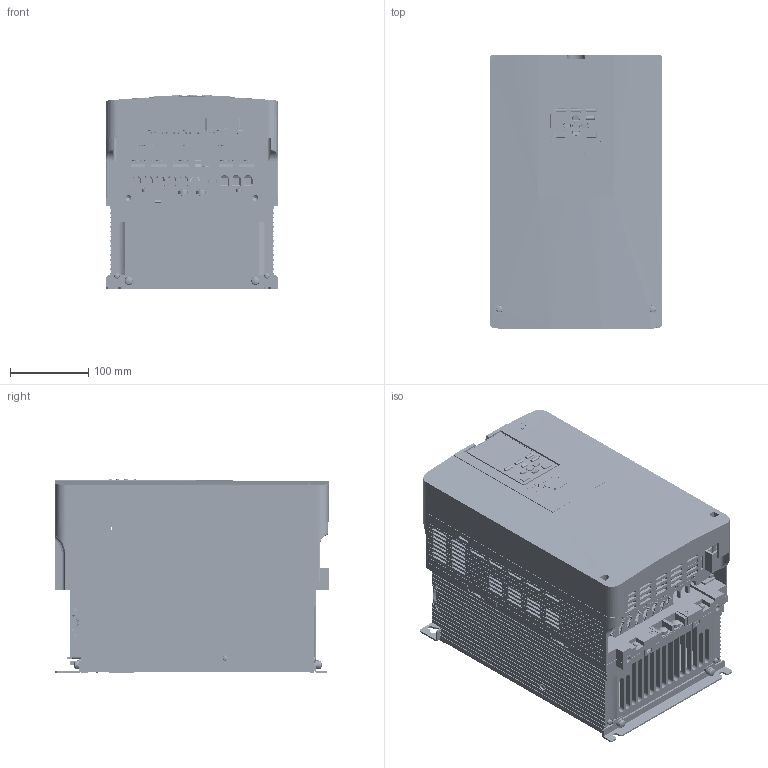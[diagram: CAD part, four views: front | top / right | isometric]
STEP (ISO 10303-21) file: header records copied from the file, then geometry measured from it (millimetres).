
FILE_DESCRIPTION((''),'2;1');
FILE_NAME('71617-GA70_Q_4060_AB_B_Q_A_ASM','2017-03-11T',('toshi531'),('YASKAWA ELECTRIC CORCORATION'),'PRO/ENGINEER BY PARAMETRIC TECHNOLOGY CORPORATION, 2015110','PRO/ENGINEER BY PARAMETRIC TECHNOLOGY CORPORATION, 2015110','');
FILE_SCHEMA(('AUTOMOTIVE_DESIGN { 1 0 10303 214 1 1 1 1 }'));
Products named in the file (19): LAY-GA70_4060; GA70_4060_BODY; GA70_4060_MTG_PLATE_BOTTOM; GEM_OPEN_SCREW_M6X14; GA70_4060_MTG_PLATE_TOP; GA70_4060_FAN; GA70_4060_FAN_COVER; GEM_OPEN_SCREW_M4X20; GA70_ALL_TB_TYPEB; GEM_OPEN_SCREW_M3P5X6; GEM_OPEN_SCREW_M3X15; GA70_ALL_LED; GA70_4060_IP20_COVER; GA70_4060_FP; GA70_ALL_USB_COVER; GA70_ALL_CONNECTOR; GA70_ALL_LCD_OPERATOR; GA70_4060_SCREW_GND; 71617-GA70_Q_4060_AB_B_Q_A_ASM
Assembly tree (23 placements, depth 2):
  71617-GA70_Q_4060_AB_B_Q_A_ASM
    LAY-GA70_4060
    GA70_4060_BODY
    GA70_4060_MTG_PLATE_BOTTOM
    GEM_OPEN_SCREW_M6X14  x4
    GA70_4060_MTG_PLATE_TOP
    GA70_4060_FAN  x2
    GA70_4060_FAN_COVER
    GEM_OPEN_SCREW_M4X20
    GA70_ALL_TB_TYPEB
    GEM_OPEN_SCREW_M3P5X6
    GEM_OPEN_SCREW_M3X15
    GA70_ALL_LED
    GA70_4060_IP20_COVER
    GA70_4060_FP
    GA70_ALL_USB_COVER
    GA70_ALL_CONNECTOR
    GA70_ALL_LCD_OPERATOR
    GA70_4060_SCREW_GND  x2
Bounding box: 220 x 350 x 247.5 mm (x, y, z)
Volume: 6568342.9 mm3; surface area: 1318244.1 mm2
Topology: 27 solids, 37 shells, 12536 faces, 34150 edges, 22179 vertices
Faces by surface type: plane 9716, cylinder 2033, torus 277, cone 237, bspline 136, extrusion 87, sphere 50
Entity records: 474219 total; most frequent: CARTESIAN_POINT 88751, ORIENTED_EDGE 66016, DIRECTION 59750, EDGE_CURVE 33008, VECTOR 27040, LINE 26977, VERTEX_POINT 21498, AXIS2_PLACEMENT_3D 16355
